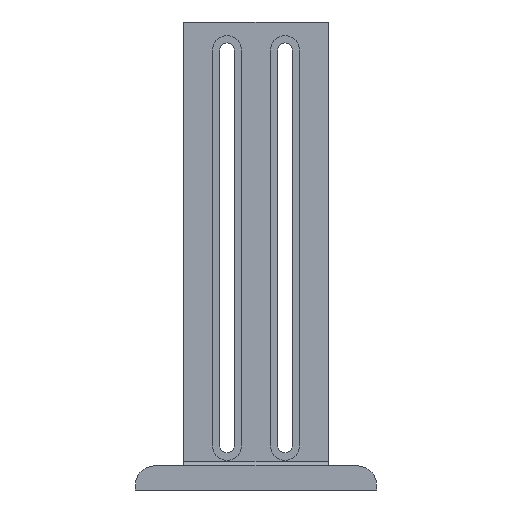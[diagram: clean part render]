
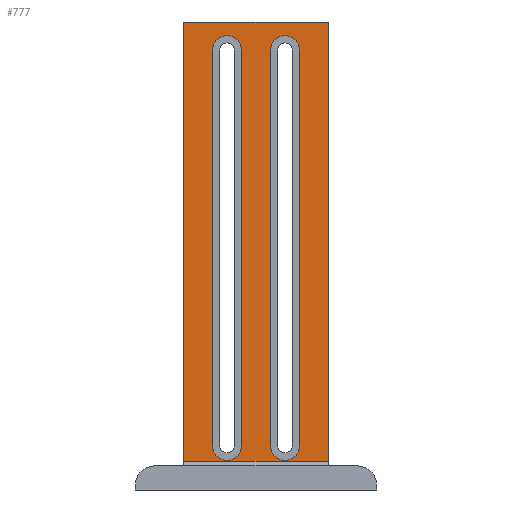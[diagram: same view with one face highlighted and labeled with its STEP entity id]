
A CAD part, left-side view. The second image highlights one B-rep face of the part: STEP entity #777.
In plain terms, the highlighted planar face has unit normal (-1, 0, 0).
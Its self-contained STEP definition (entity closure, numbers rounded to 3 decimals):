
#30=LINE('',#1222,#100);
#39=LINE('',#1240,#109);
#40=LINE('',#1242,#110);
#41=LINE('',#1243,#111);
#42=LINE('',#1246,#112);
#43=LINE('',#1250,#113);
#44=LINE('',#1254,#114);
#45=LINE('',#1258,#115);
#100=VECTOR('',#975,1000.);
#109=VECTOR('',#988,1000.);
#110=VECTOR('',#989,1000.);
#111=VECTOR('',#990,1000.);
#112=VECTOR('',#991,10.);
#113=VECTOR('',#994,1000.);
#114=VECTOR('',#997,1000.);
#115=VECTOR('',#1000,1000.);
#184=FACE_BOUND('',#256,.T.);
#185=FACE_BOUND('',#257,.T.);
#201=FACE_OUTER_BOUND('',#255,.T.);
#255=EDGE_LOOP('',(#571,#572,#573,#574));
#256=EDGE_LOOP('',(#575,#576,#577,#578));
#257=EDGE_LOOP('',(#579,#580,#581,#582));
#315=CIRCLE('',#853,3.);
#316=CIRCLE('',#854,3.);
#317=CIRCLE('',#855,3.);
#318=CIRCLE('',#856,3.);
#363=VERTEX_POINT('',#1219);
#364=VERTEX_POINT('',#1221);
#371=VERTEX_POINT('',#1239);
#372=VERTEX_POINT('',#1241);
#373=VERTEX_POINT('',#1244);
#374=VERTEX_POINT('',#1245);
#375=VERTEX_POINT('',#1247);
#376=VERTEX_POINT('',#1249);
#377=VERTEX_POINT('',#1252);
#378=VERTEX_POINT('',#1253);
#379=VERTEX_POINT('',#1255);
#380=VERTEX_POINT('',#1257);
#440=EDGE_CURVE('',#364,#363,#30,.T.);
#449=EDGE_CURVE('',#363,#371,#39,.T.);
#450=EDGE_CURVE('',#372,#371,#40,.T.);
#451=EDGE_CURVE('',#364,#372,#41,.T.);
#452=EDGE_CURVE('',#373,#374,#42,.T.);
#453=EDGE_CURVE('',#375,#374,#315,.T.);
#454=EDGE_CURVE('',#376,#375,#43,.T.);
#455=EDGE_CURVE('',#376,#373,#316,.T.);
#456=EDGE_CURVE('',#377,#378,#44,.T.);
#457=EDGE_CURVE('',#377,#379,#317,.T.);
#458=EDGE_CURVE('',#380,#379,#45,.T.);
#459=EDGE_CURVE('',#378,#380,#318,.T.);
#571=ORIENTED_EDGE('',*,*,#440,.T.);
#572=ORIENTED_EDGE('',*,*,#449,.T.);
#573=ORIENTED_EDGE('',*,*,#450,.F.);
#574=ORIENTED_EDGE('',*,*,#451,.F.);
#575=ORIENTED_EDGE('',*,*,#452,.T.);
#576=ORIENTED_EDGE('',*,*,#453,.F.);
#577=ORIENTED_EDGE('',*,*,#454,.F.);
#578=ORIENTED_EDGE('',*,*,#455,.T.);
#579=ORIENTED_EDGE('',*,*,#456,.F.);
#580=ORIENTED_EDGE('',*,*,#457,.T.);
#581=ORIENTED_EDGE('',*,*,#458,.F.);
#582=ORIENTED_EDGE('',*,*,#459,.F.);
#748=PLANE('',#852);
#777=ADVANCED_FACE('',(#201,#184,#185),#748,.F.);
#852=AXIS2_PLACEMENT_3D('',#1238,#986,#987);
#853=AXIS2_PLACEMENT_3D('',#1248,#992,#993);
#854=AXIS2_PLACEMENT_3D('',#1251,#995,#996);
#855=AXIS2_PLACEMENT_3D('',#1256,#998,#999);
#856=AXIS2_PLACEMENT_3D('',#1259,#1001,#1002);
#975=DIRECTION('',(0.,0.,-1.));
#986=DIRECTION('center_axis',(1.,0.,0.));
#987=DIRECTION('ref_axis',(0.,1.,0.));
#988=DIRECTION('',(0.,-1.,0.));
#989=DIRECTION('',(0.,0.,-1.));
#990=DIRECTION('',(0.,-1.,0.));
#991=DIRECTION('',(0.,0.,-1.));
#992=DIRECTION('center_axis',(-1.,0.,0.));
#993=DIRECTION('ref_axis',(0.,-1.,0.));
#994=DIRECTION('',(0.,0.,-1.));
#995=DIRECTION('center_axis',(1.,0.,0.));
#996=DIRECTION('ref_axis',(0.,-1.,0.));
#997=DIRECTION('',(0.,0.,-1.));
#998=DIRECTION('center_axis',(1.,0.,0.));
#999=DIRECTION('ref_axis',(0.,-1.,0.));
#1000=DIRECTION('',(0.,0.,1.));
#1001=DIRECTION('center_axis',(-1.,0.,0.));
#1002=DIRECTION('ref_axis',(0.,1.,0.));
#1219=CARTESIAN_POINT('',(-3.,15.,6.));
#1221=CARTESIAN_POINT('',(-3.,15.,97.));
#1222=CARTESIAN_POINT('',(-3.,15.,85.5));
#1238=CARTESIAN_POINT('Origin',(-3.,15.,85.5));
#1239=CARTESIAN_POINT('',(-3.,-15.,6.));
#1240=CARTESIAN_POINT('',(-3.,15.,6.));
#1241=CARTESIAN_POINT('',(-3.,-15.,97.));
#1242=CARTESIAN_POINT('',(-3.,-15.,85.5));
#1243=CARTESIAN_POINT('',(-3.,15.,97.));
#1244=CARTESIAN_POINT('',(-3.,3.,91.168));
#1245=CARTESIAN_POINT('',(-3.,3.,9.168));
#1246=CARTESIAN_POINT('',(-3.,3.,88.334));
#1247=CARTESIAN_POINT('',(-3.,9.,9.168));
#1248=CARTESIAN_POINT('Origin',(-3.,6.,9.168));
#1249=CARTESIAN_POINT('',(-3.,9.,91.168));
#1250=CARTESIAN_POINT('',(-3.,9.,9.168));
#1251=CARTESIAN_POINT('Origin',(-3.,6.,91.168));
#1252=CARTESIAN_POINT('',(-3.,-3.,91.168));
#1253=CARTESIAN_POINT('',(-3.,-3.,9.168));
#1254=CARTESIAN_POINT('',(-3.,-3.,9.168));
#1255=CARTESIAN_POINT('',(-3.,-9.,91.168));
#1256=CARTESIAN_POINT('Origin',(-3.,-6.,91.168));
#1257=CARTESIAN_POINT('',(-3.,-9.,9.168));
#1258=CARTESIAN_POINT('',(-3.,-9.,9.168));
#1259=CARTESIAN_POINT('Origin',(-3.,-6.,9.168));
